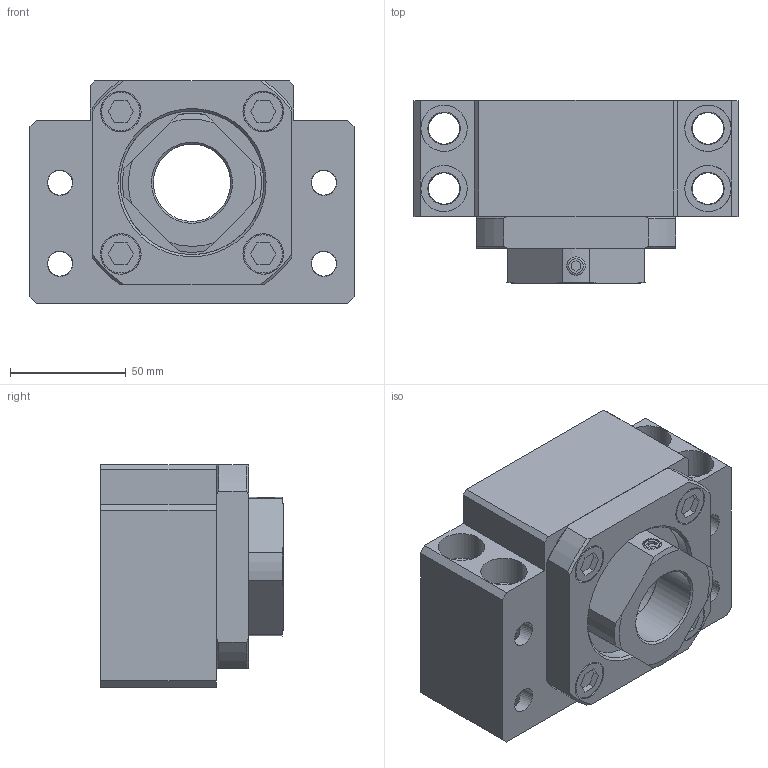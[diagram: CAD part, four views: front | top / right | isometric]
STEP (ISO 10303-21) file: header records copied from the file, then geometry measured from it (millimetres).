
FILE_DESCRIPTION( ('This file contains a STEP AP42 implementation' ,'as created by ZW3D STEP Interface translator.') ,'2;1' );
FILE_NAME( '58f9a18a-c484-4e14-89a2-572fd769ba24.stp' ,'18 315.171545', (''), ('ZWCAD Software Co.'), 'Version 1.0', 'ZW3D to STEP translator', '' );
FILE_SCHEMA( ('CONFIG_CONTROL_DESIGN') );
Length unit declared in the file: millimetre
Products named in the file (4): 0; FSFBK-35; _BK 35collar; _BK 35
Assembly tree (2 placements, depth 2):
  0
  FSFBK-35
    _BK 35collar
    _BK 35
Bounding box: 140 x 79 x 96 mm (x, y, z)
Volume: 617138.6 mm3; surface area: 108649.1 mm2
Topology: 2 solids, 3 shells, 161 faces, 410 edges, 274 vertices
Faces by surface type: bspline 161
Entity records: 6425 total; most frequent: CARTESIAN_POINT 3680, ORIENTED_EDGE 820, EDGE_CURVE 410, B_SPLINE_CURVE_WITH_KNOTS 296, VERTEX_POINT 274, EDGE_LOOP 216, FACE_OUTER_BOUND 161, ADVANCED_FACE 161
